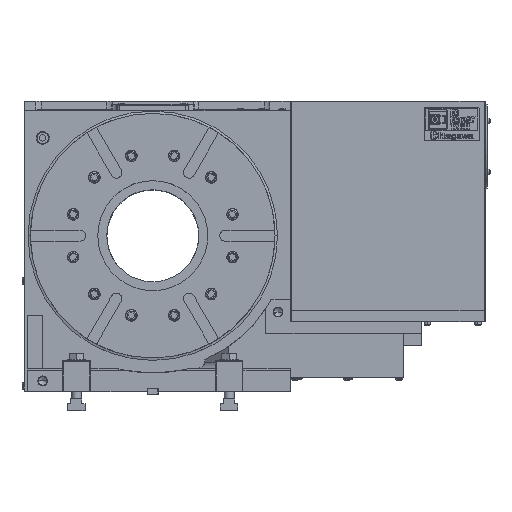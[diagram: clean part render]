
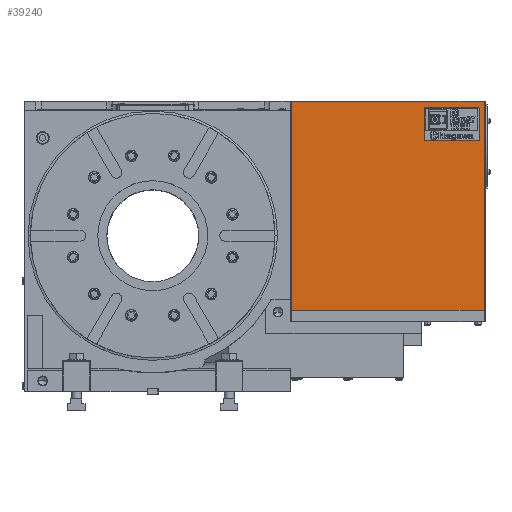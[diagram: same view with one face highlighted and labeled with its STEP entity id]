
A CAD part, top view. The second image highlights one B-rep face of the part: STEP entity #39240.
In plain terms, the highlighted planar face has unit normal (0, 0, 1).
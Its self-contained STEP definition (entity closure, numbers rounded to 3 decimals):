
#624 = EDGE_CURVE ( 'NONE', #33341, #37666, #96650, .T. ) ;
#632 = FACE_OUTER_BOUND ( 'NONE', #59394, .T. ) ;
#896 = CARTESIAN_POINT ( 'NONE',  ( 0., 21., 0. ) ) ;
#2298 = CARTESIAN_POINT ( 'NONE',  ( 0., 342., 0. ) ) ;
#3433 = CARTESIAN_POINT ( 'NONE',  ( -2., 342., 0. ) ) ;
#5450 = ORIENTED_EDGE ( 'NONE', *, *, #624, .F. ) ;
#17541 = DIRECTION ( 'NONE',  ( 0., 0., -1. ) ) ;
#25388 = VECTOR ( 'NONE', #90397, 1000. ) ;
#25985 = EDGE_CURVE ( 'NONE', #33341, #90484, #58501, .T. ) ;
#28307 = VECTOR ( 'NONE', #84848, 1000. ) ;
#31882 = VERTEX_POINT ( 'NONE', #64333 ) ;
#33341 = VERTEX_POINT ( 'NONE', #34827 ) ;
#34827 = CARTESIAN_POINT ( 'NONE',  ( -317., 342., 0. ) ) ;
#36032 = ORIENTED_EDGE ( 'NONE', *, *, #25985, .T. ) ;
#37666 = VERTEX_POINT ( 'NONE', #3433 ) ;
#39240 = ADVANCED_FACE ( 'NONE', ( #632 ), #83115, .F. ) ;
#40174 = EDGE_CURVE ( 'NONE', #90484, #31882, #67428, .T. ) ;
#40358 = VECTOR ( 'NONE', #106436, 1000. ) ;
#58501 = LINE ( 'NONE', #73798, #77829 ) ;
#59394 = EDGE_LOOP ( 'NONE', ( #5450, #36032, #85530, #105831 ) ) ;
#64333 = CARTESIAN_POINT ( 'NONE',  ( -2., 0., 0. ) ) ;
#64981 = CARTESIAN_POINT ( 'NONE',  ( 0., 0., 0. ) ) ;
#66991 = AXIS2_PLACEMENT_3D ( 'NONE', #896, #17541, #75224 ) ;
#67428 = LINE ( 'NONE', #64981, #40358 ) ;
#73798 = CARTESIAN_POINT ( 'NONE',  ( -317., 21., 0. ) ) ;
#74269 = CARTESIAN_POINT ( 'NONE',  ( -317., 0., 0. ) ) ;
#75224 = DIRECTION ( 'NONE',  ( -1., 0., 0. ) ) ;
#77829 = VECTOR ( 'NONE', #106594, 1000. ) ;
#82064 = CARTESIAN_POINT ( 'NONE',  ( -2., 21., 0. ) ) ;
#83115 = PLANE ( 'NONE',  #66991 ) ;
#84848 = DIRECTION ( 'NONE',  ( 1., 0., 0. ) ) ;
#85530 = ORIENTED_EDGE ( 'NONE', *, *, #40174, .T. ) ;
#90397 = DIRECTION ( 'NONE',  ( 0., 1., 0. ) ) ;
#90484 = VERTEX_POINT ( 'NONE', #74269 ) ;
#91140 = LINE ( 'NONE', #82064, #25388 ) ;
#93862 = EDGE_CURVE ( 'NONE', #31882, #37666, #91140, .T. ) ;
#96650 = LINE ( 'NONE', #2298, #28307 ) ;
#105831 = ORIENTED_EDGE ( 'NONE', *, *, #93862, .T. ) ;
#106436 = DIRECTION ( 'NONE',  ( 1., 0., 0. ) ) ;
#106594 = DIRECTION ( 'NONE',  ( 0., -1., 0. ) ) ;
